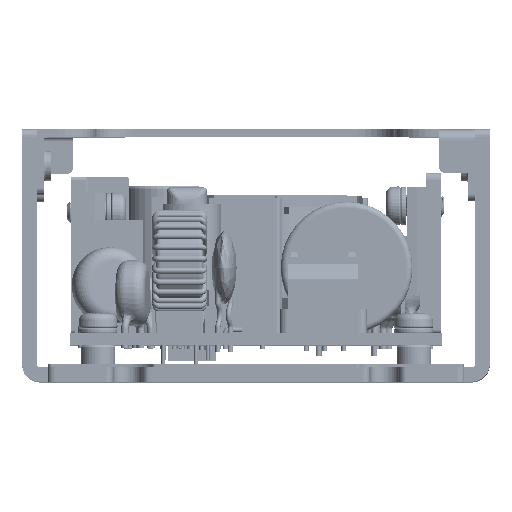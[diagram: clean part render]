
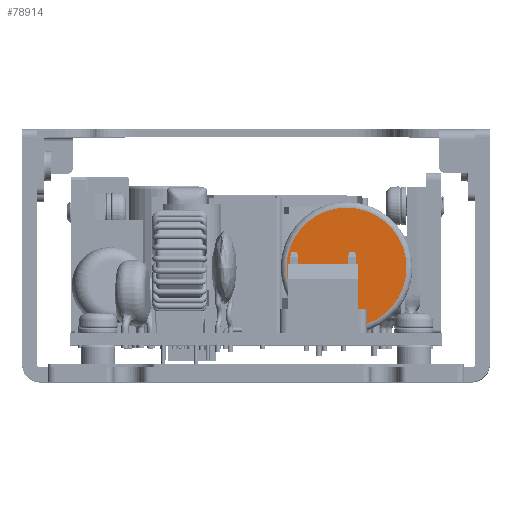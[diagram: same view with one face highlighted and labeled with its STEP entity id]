
A CAD part, top view. The second image highlights one B-rep face of the part: STEP entity #78914.
In plain terms, the highlighted planar face has unit normal (0, 0, 1) as drawn and (0, 0, -1) by its records, which use the part's own axes.
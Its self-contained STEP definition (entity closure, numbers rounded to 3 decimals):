
#3021 = AXIS2_PLACEMENT_3D ( 'NONE', #41601, #99176, #83821 ) ;
#3135 = EDGE_CURVE ( 'NONE', #91607, #31471, #96322, .T. ) ;
#13183 = DIRECTION ( 'NONE',  ( 1., 0., 0. ) ) ;
#17037 = EDGE_CURVE ( 'NONE', #31471, #91607, #95784, .T. ) ;
#21922 = AXIS2_PLACEMENT_3D ( 'NONE', #37313, #71848, #13183 ) ;
#29610 = DIRECTION ( 'NONE',  ( 1., 0., 0. ) ) ;
#31471 = VERTEX_POINT ( 'NONE', #76279 ) ;
#37313 = CARTESIAN_POINT ( 'NONE',  ( -8.2, 0., -26.5 ) ) ;
#39448 = DIRECTION ( 'NONE',  ( 0., 0., 1. ) ) ;
#41601 = CARTESIAN_POINT ( 'NONE',  ( 0., 0., -26.5 ) ) ;
#46736 = CARTESIAN_POINT ( 'NONE',  ( -8.2, 0., -26.5 ) ) ;
#54859 = PLANE ( 'NONE',  #21922 ) ;
#55408 = FACE_OUTER_BOUND ( 'NONE', #56787, .T. ) ;
#56787 = EDGE_LOOP ( 'NONE', ( #107926, #105941 ) ) ;
#71805 = CARTESIAN_POINT ( 'NONE',  ( 0., 0., -26.5 ) ) ;
#71848 = DIRECTION ( 'NONE',  ( 0., 0., 1. ) ) ;
#76279 = CARTESIAN_POINT ( 'NONE',  ( 8.2, 0., -26.5 ) ) ;
#78914 = ADVANCED_FACE ( 'NONE', ( #55408 ), #54859, .F. ) ;
#83821 = DIRECTION ( 'NONE',  ( 1., 0., 0. ) ) ;
#91607 = VERTEX_POINT ( 'NONE', #46736 ) ;
#95784 = CIRCLE ( 'NONE', #3021, 8.2 ) ;
#96322 = CIRCLE ( 'NONE', #103335, 8.2 ) ;
#99176 = DIRECTION ( 'NONE',  ( 0., 0., 1. ) ) ;
#103335 = AXIS2_PLACEMENT_3D ( 'NONE', #71805, #39448, #29610 ) ;
#105941 = ORIENTED_EDGE ( 'NONE', *, *, #3135, .F. ) ;
#107926 = ORIENTED_EDGE ( 'NONE', *, *, #17037, .F. ) ;
